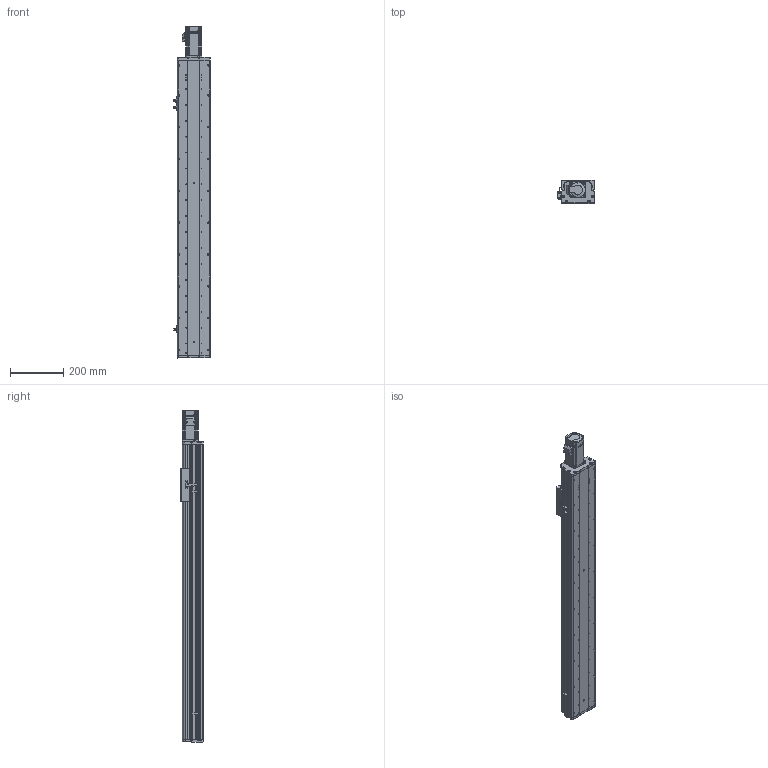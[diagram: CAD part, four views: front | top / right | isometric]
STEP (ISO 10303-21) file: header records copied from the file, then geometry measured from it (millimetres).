
FILE_DESCRIPTION (( 'STEP AP214' ), '1' );
FILE_NAME ('KSD125S-S850-MN-CM.STEP', '2017-08-07T06:19:08', ( '微软用户' ), ( '微软中国' ), 'SwSTEP 2.0', 'SolidWorks 2014', '' );
FILE_SCHEMA (( 'AUTOMOTIVE_DESIGN' ));
Length unit declared in the file: millimetre
Products named in the file (12): 拸萇儂釱滅袉菜; 覜茼え68遵圉猾敕; U倰嫖萇假蚾璃; U倰嫖萇EEㄜSX672; KSD125-賑雄釱1; CS-34X32-10X14; 125-帣傷啣1; KSD125S-S850-MN-CM; KSD125S-850行程丝杆防尘盖-直连不带电机座; KSD125S-850行程丝杆底板-直连不带电机座; 125宽模组 - 直连不带电机座电机安装板; MHMD042G1CA_2_03
Assembly tree (15 placements, depth 2):
  KSD125S-S850-MN-CM
    125-帣傷啣1
    CS-34X32-10X14
    KSD125-賑雄釱1
    U倰嫖萇EEㄜSX672  x3
    U倰嫖萇假蚾璃  x3
    覜茼え68遵圉猾敕
    拸萇儂釱滅袉菜
    MHMD042G1CA_2_03
    125宽模组 - 直连不带电机座电机安装板
    KSD125S-850行程丝杆底板-直连不带电机座
    KSD125S-850行程丝杆防尘盖-直连不带电机座
Bounding box: 138.7 x 86 x 1251.5 mm (x, y, z)
Volume: 3585435.9 mm3; surface area: 1174512.9 mm2
Topology: 14 solids, 17 shells, 1500 faces, 4347 edges, 2861 vertices
Faces by surface type: cylinder 764, plane 623, cone 91, bspline 22
Entity records: 53100 total; most frequent: CARTESIAN_POINT 11298, DIRECTION 7539, ORIENTED_EDGE 7202, EDGE_CURVE 3679, AXIS2_PLACEMENT_3D 2780, VERTEX_POINT 2453, VECTOR 1979, LINE 1979
